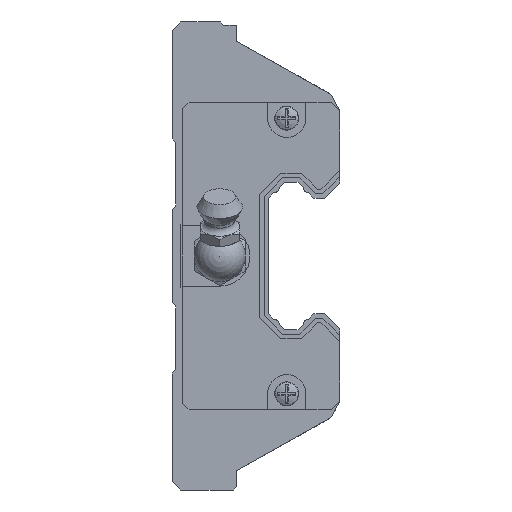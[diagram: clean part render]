
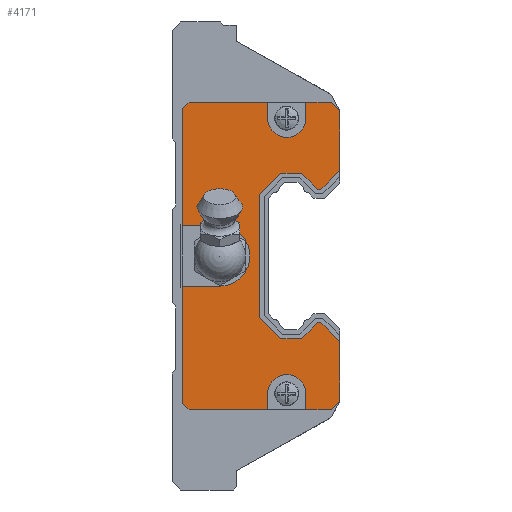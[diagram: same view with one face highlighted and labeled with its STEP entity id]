
A CAD part, left-side view. The second image highlights one B-rep face of the part: STEP entity #4171.
In plain terms, the highlighted planar face has unit normal (-1, 0, 0) as drawn and (1, 0, 0) by its records, which use the part's own axes.
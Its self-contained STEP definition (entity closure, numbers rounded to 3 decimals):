
#3736 = EDGE_CURVE('',#3737,#3739,#3741,.T.);
#3737 = VERTEX_POINT('',#3738);
#3738 = CARTESIAN_POINT('',(3.,18.16,-24.));
#3739 = VERTEX_POINT('',#3740);
#3740 = CARTESIAN_POINT('',(3.,18.16,-21.5));
#3741 = LINE('',#3742,#3743);
#3742 = CARTESIAN_POINT('',(3.,18.16,0.));
#3743 = VECTOR('',#3744,1.);
#3744 = DIRECTION('',(0.,0.,1.));
#3787 = VERTEX_POINT('',#3788);
#3788 = CARTESIAN_POINT('',(3.,12.16,-21.5));
#3794 = EDGE_CURVE('',#3739,#3787,#3795,.T.);
#3795 = CIRCLE('',#3796,3.);
#3796 = AXIS2_PLACEMENT_3D('',#3797,#3798,#3799);
#3797 = CARTESIAN_POINT('',(3.,15.16,-21.5));
#3798 = DIRECTION('',(1.,0.,0.));
#3799 = DIRECTION('',(0.,0.,-1.));
#4123 = VERTEX_POINT('',#4124);
#4124 = CARTESIAN_POINT('',(3.,6.9,13.327));
#4130 = EDGE_CURVE('',#4131,#4123,#4133,.T.);
#4131 = VERTEX_POINT('',#4132);
#4132 = CARTESIAN_POINT('',(3.,6.9,22.66));
#4133 = LINE('',#4134,#4135);
#4134 = CARTESIAN_POINT('',(3.,6.9,22.66));
#4135 = VECTOR('',#4136,1.);
#4136 = DIRECTION('',(0.,0.,-1.));
#4171 = ADVANCED_FACE('',(#4172),#4407,.T.);
#4172 = FACE_BOUND('',#4173,.T.);
#4173 = EDGE_LOOP('',(#4174,#4182,#4190,#4198,#4206,#4214,#4222,#4230,
    #4238,#4246,#4254,#4262,#4270,#4278,#4286,#4292,#4293,#4294,#4302,
    #4310,#4318,#4326,#4335,#4343,#4351,#4359,#4367,#4375,#4384,#4392,
    #4400,#4406));
#4174 = ORIENTED_EDGE('',*,*,#4175,.F.);
#4175 = EDGE_CURVE('',#4176,#4123,#4178,.T.);
#4176 = VERTEX_POINT('',#4177);
#4177 = CARTESIAN_POINT('',(3.,9.825,10.402));
#4178 = LINE('',#4179,#4180);
#4179 = CARTESIAN_POINT('',(3.,9.825,10.402));
#4180 = VECTOR('',#4181,1.);
#4181 = DIRECTION('',(0.,-0.707,0.707));
#4182 = ORIENTED_EDGE('',*,*,#4183,.F.);
#4183 = EDGE_CURVE('',#4184,#4176,#4186,.T.);
#4184 = VERTEX_POINT('',#4185);
#4185 = CARTESIAN_POINT('',(3.,10.348,10.402));
#4186 = LINE('',#4187,#4188);
#4187 = CARTESIAN_POINT('',(3.,10.348,10.402));
#4188 = VECTOR('',#4189,1.);
#4189 = DIRECTION('',(0.,-1.,0.));
#4190 = ORIENTED_EDGE('',*,*,#4191,.F.);
#4191 = EDGE_CURVE('',#4192,#4184,#4194,.T.);
#4192 = VERTEX_POINT('',#4193);
#4193 = CARTESIAN_POINT('',(3.,12.826,12.88));
#4194 = LINE('',#4195,#4196);
#4195 = CARTESIAN_POINT('',(3.,12.826,12.88));
#4196 = VECTOR('',#4197,1.);
#4197 = DIRECTION('',(0.,-0.707,-0.707));
#4198 = ORIENTED_EDGE('',*,*,#4199,.F.);
#4199 = EDGE_CURVE('',#4200,#4192,#4202,.T.);
#4200 = VERTEX_POINT('',#4201);
#4201 = CARTESIAN_POINT('',(3.,16.094,12.88));
#4202 = LINE('',#4203,#4204);
#4203 = CARTESIAN_POINT('',(3.,16.094,12.88));
#4204 = VECTOR('',#4205,1.);
#4205 = DIRECTION('',(0.,-1.,0.));
#4206 = ORIENTED_EDGE('',*,*,#4207,.F.);
#4207 = EDGE_CURVE('',#4208,#4200,#4210,.T.);
#4208 = VERTEX_POINT('',#4209);
#4209 = CARTESIAN_POINT('',(3.,19.38,9.594));
#4210 = LINE('',#4211,#4212);
#4211 = CARTESIAN_POINT('',(3.,19.38,9.594));
#4212 = VECTOR('',#4213,1.);
#4213 = DIRECTION('',(0.,-0.707,0.707));
#4214 = ORIENTED_EDGE('',*,*,#4215,.F.);
#4215 = EDGE_CURVE('',#4216,#4208,#4218,.T.);
#4216 = VERTEX_POINT('',#4217);
#4217 = CARTESIAN_POINT('',(3.,19.38,-9.594));
#4218 = LINE('',#4219,#4220);
#4219 = CARTESIAN_POINT('',(3.,19.38,-9.594));
#4220 = VECTOR('',#4221,1.);
#4221 = DIRECTION('',(0.,0.,1.));
#4222 = ORIENTED_EDGE('',*,*,#4223,.F.);
#4223 = EDGE_CURVE('',#4224,#4216,#4226,.T.);
#4224 = VERTEX_POINT('',#4225);
#4225 = CARTESIAN_POINT('',(3.,16.094,-12.88));
#4226 = LINE('',#4227,#4228);
#4227 = CARTESIAN_POINT('',(3.,16.094,-12.88));
#4228 = VECTOR('',#4229,1.);
#4229 = DIRECTION('',(0.,0.707,0.707));
#4230 = ORIENTED_EDGE('',*,*,#4231,.F.);
#4231 = EDGE_CURVE('',#4232,#4224,#4234,.T.);
#4232 = VERTEX_POINT('',#4233);
#4233 = CARTESIAN_POINT('',(3.,12.826,-12.88));
#4234 = LINE('',#4235,#4236);
#4235 = CARTESIAN_POINT('',(3.,12.826,-12.88));
#4236 = VECTOR('',#4237,1.);
#4237 = DIRECTION('',(0.,1.,0.));
#4238 = ORIENTED_EDGE('',*,*,#4239,.F.);
#4239 = EDGE_CURVE('',#4240,#4232,#4242,.T.);
#4240 = VERTEX_POINT('',#4241);
#4241 = CARTESIAN_POINT('',(3.,10.348,-10.402));
#4242 = LINE('',#4243,#4244);
#4243 = CARTESIAN_POINT('',(3.,10.348,-10.402));
#4244 = VECTOR('',#4245,1.);
#4245 = DIRECTION('',(0.,0.707,-0.707));
#4246 = ORIENTED_EDGE('',*,*,#4247,.F.);
#4247 = EDGE_CURVE('',#4248,#4240,#4250,.T.);
#4248 = VERTEX_POINT('',#4249);
#4249 = CARTESIAN_POINT('',(3.,9.825,-10.402));
#4250 = LINE('',#4251,#4252);
#4251 = CARTESIAN_POINT('',(3.,9.825,-10.402));
#4252 = VECTOR('',#4253,1.);
#4253 = DIRECTION('',(0.,1.,0.));
#4254 = ORIENTED_EDGE('',*,*,#4255,.F.);
#4255 = EDGE_CURVE('',#4256,#4248,#4258,.T.);
#4256 = VERTEX_POINT('',#4257);
#4257 = CARTESIAN_POINT('',(3.,6.9,-13.327));
#4258 = LINE('',#4259,#4260);
#4259 = CARTESIAN_POINT('',(3.,6.9,-13.327));
#4260 = VECTOR('',#4261,1.);
#4261 = DIRECTION('',(0.,0.707,0.707));
#4262 = ORIENTED_EDGE('',*,*,#4263,.T.);
#4263 = EDGE_CURVE('',#4256,#4264,#4266,.T.);
#4264 = VERTEX_POINT('',#4265);
#4265 = CARTESIAN_POINT('',(3.,6.9,-22.66));
#4266 = LINE('',#4267,#4268);
#4267 = CARTESIAN_POINT('',(3.,6.9,22.66));
#4268 = VECTOR('',#4269,1.);
#4269 = DIRECTION('',(0.,0.,-1.));
#4270 = ORIENTED_EDGE('',*,*,#4271,.T.);
#4271 = EDGE_CURVE('',#4264,#4272,#4274,.T.);
#4272 = VERTEX_POINT('',#4273);
#4273 = CARTESIAN_POINT('',(3.,8.24,-24.));
#4274 = LINE('',#4275,#4276);
#4275 = CARTESIAN_POINT('',(3.,6.9,-22.66));
#4276 = VECTOR('',#4277,1.);
#4277 = DIRECTION('',(0.,0.707,-0.707));
#4278 = ORIENTED_EDGE('',*,*,#4279,.T.);
#4279 = EDGE_CURVE('',#4272,#4280,#4282,.T.);
#4280 = VERTEX_POINT('',#4281);
#4281 = CARTESIAN_POINT('',(3.,12.16,-24.));
#4282 = LINE('',#4283,#4284);
#4283 = CARTESIAN_POINT('',(3.,8.24,-24.));
#4284 = VECTOR('',#4285,1.);
#4285 = DIRECTION('',(0.,1.,0.));
#4286 = ORIENTED_EDGE('',*,*,#4287,.F.);
#4287 = EDGE_CURVE('',#3787,#4280,#4288,.T.);
#4288 = LINE('',#4289,#4290);
#4289 = CARTESIAN_POINT('',(3.,12.16,-21.5));
#4290 = VECTOR('',#4291,1.);
#4291 = DIRECTION('',(0.,0.,-1.));
#4292 = ORIENTED_EDGE('',*,*,#3794,.F.);
#4293 = ORIENTED_EDGE('',*,*,#3736,.F.);
#4294 = ORIENTED_EDGE('',*,*,#4295,.T.);
#4295 = EDGE_CURVE('',#3737,#4296,#4298,.T.);
#4296 = VERTEX_POINT('',#4297);
#4297 = CARTESIAN_POINT('',(3.,30.4,-24.));
#4298 = LINE('',#4299,#4300);
#4299 = CARTESIAN_POINT('',(3.,8.24,-24.));
#4300 = VECTOR('',#4301,1.);
#4301 = DIRECTION('',(0.,1.,0.));
#4302 = ORIENTED_EDGE('',*,*,#4303,.T.);
#4303 = EDGE_CURVE('',#4296,#4304,#4306,.T.);
#4304 = VERTEX_POINT('',#4305);
#4305 = CARTESIAN_POINT('',(3.,31.4,-23.));
#4306 = LINE('',#4307,#4308);
#4307 = CARTESIAN_POINT('',(3.,30.4,-24.));
#4308 = VECTOR('',#4309,1.);
#4309 = DIRECTION('',(0.,0.707,0.707));
#4310 = ORIENTED_EDGE('',*,*,#4311,.T.);
#4311 = EDGE_CURVE('',#4304,#4312,#4314,.T.);
#4312 = VERTEX_POINT('',#4313);
#4313 = CARTESIAN_POINT('',(3.,31.4,-4.7));
#4314 = LINE('',#4315,#4316);
#4315 = CARTESIAN_POINT('',(3.,31.4,-23.));
#4316 = VECTOR('',#4317,1.);
#4317 = DIRECTION('',(0.,0.,1.));
#4318 = ORIENTED_EDGE('',*,*,#4319,.F.);
#4319 = EDGE_CURVE('',#4320,#4312,#4322,.T.);
#4320 = VERTEX_POINT('',#4321);
#4321 = CARTESIAN_POINT('',(3.,25.6,-4.7));
#4322 = LINE('',#4323,#4324);
#4323 = CARTESIAN_POINT('',(3.,25.6,-4.7));
#4324 = VECTOR('',#4325,1.);
#4325 = DIRECTION('',(0.,1.,0.));
#4326 = ORIENTED_EDGE('',*,*,#4327,.F.);
#4327 = EDGE_CURVE('',#4328,#4320,#4330,.T.);
#4328 = VERTEX_POINT('',#4329);
#4329 = CARTESIAN_POINT('',(3.,25.6,4.7));
#4330 = CIRCLE('',#4331,4.7);
#4331 = AXIS2_PLACEMENT_3D('',#4332,#4333,#4334);
#4332 = CARTESIAN_POINT('',(3.,25.6,0.));
#4333 = DIRECTION('',(1.,0.,0.));
#4334 = DIRECTION('',(0.,0.,-1.));
#4335 = ORIENTED_EDGE('',*,*,#4336,.F.);
#4336 = EDGE_CURVE('',#4337,#4328,#4339,.T.);
#4337 = VERTEX_POINT('',#4338);
#4338 = CARTESIAN_POINT('',(3.,31.4,4.7));
#4339 = LINE('',#4340,#4341);
#4340 = CARTESIAN_POINT('',(3.,31.4,4.7));
#4341 = VECTOR('',#4342,1.);
#4342 = DIRECTION('',(0.,-1.,0.));
#4343 = ORIENTED_EDGE('',*,*,#4344,.T.);
#4344 = EDGE_CURVE('',#4337,#4345,#4347,.T.);
#4345 = VERTEX_POINT('',#4346);
#4346 = CARTESIAN_POINT('',(3.,31.4,23.));
#4347 = LINE('',#4348,#4349);
#4348 = CARTESIAN_POINT('',(3.,31.4,-23.));
#4349 = VECTOR('',#4350,1.);
#4350 = DIRECTION('',(0.,0.,1.));
#4351 = ORIENTED_EDGE('',*,*,#4352,.T.);
#4352 = EDGE_CURVE('',#4345,#4353,#4355,.T.);
#4353 = VERTEX_POINT('',#4354);
#4354 = CARTESIAN_POINT('',(3.,30.4,24.));
#4355 = LINE('',#4356,#4357);
#4356 = CARTESIAN_POINT('',(3.,31.4,23.));
#4357 = VECTOR('',#4358,1.);
#4358 = DIRECTION('',(0.,-0.707,0.707));
#4359 = ORIENTED_EDGE('',*,*,#4360,.T.);
#4360 = EDGE_CURVE('',#4353,#4361,#4363,.T.);
#4361 = VERTEX_POINT('',#4362);
#4362 = CARTESIAN_POINT('',(3.,18.16,24.));
#4363 = LINE('',#4364,#4365);
#4364 = CARTESIAN_POINT('',(3.,30.4,24.));
#4365 = VECTOR('',#4366,1.);
#4366 = DIRECTION('',(0.,-1.,0.));
#4367 = ORIENTED_EDGE('',*,*,#4368,.F.);
#4368 = EDGE_CURVE('',#4369,#4361,#4371,.T.);
#4369 = VERTEX_POINT('',#4370);
#4370 = CARTESIAN_POINT('',(3.,18.16,21.5));
#4371 = LINE('',#4372,#4373);
#4372 = CARTESIAN_POINT('',(3.,18.16,21.5));
#4373 = VECTOR('',#4374,1.);
#4374 = DIRECTION('',(0.,0.,1.));
#4375 = ORIENTED_EDGE('',*,*,#4376,.F.);
#4376 = EDGE_CURVE('',#4377,#4369,#4379,.T.);
#4377 = VERTEX_POINT('',#4378);
#4378 = CARTESIAN_POINT('',(3.,12.16,21.5));
#4379 = CIRCLE('',#4380,3.);
#4380 = AXIS2_PLACEMENT_3D('',#4381,#4382,#4383);
#4381 = CARTESIAN_POINT('',(3.,15.16,21.5));
#4382 = DIRECTION('',(1.,0.,0.));
#4383 = DIRECTION('',(0.,0.,-1.));
#4384 = ORIENTED_EDGE('',*,*,#4385,.F.);
#4385 = EDGE_CURVE('',#4386,#4377,#4388,.T.);
#4386 = VERTEX_POINT('',#4387);
#4387 = CARTESIAN_POINT('',(3.,12.16,24.));
#4388 = LINE('',#4389,#4390);
#4389 = CARTESIAN_POINT('',(3.,12.16,24.));
#4390 = VECTOR('',#4391,1.);
#4391 = DIRECTION('',(0.,0.,-1.));
#4392 = ORIENTED_EDGE('',*,*,#4393,.T.);
#4393 = EDGE_CURVE('',#4386,#4394,#4396,.T.);
#4394 = VERTEX_POINT('',#4395);
#4395 = CARTESIAN_POINT('',(3.,8.24,24.));
#4396 = LINE('',#4397,#4398);
#4397 = CARTESIAN_POINT('',(3.,30.4,24.));
#4398 = VECTOR('',#4399,1.);
#4399 = DIRECTION('',(0.,-1.,0.));
#4400 = ORIENTED_EDGE('',*,*,#4401,.T.);
#4401 = EDGE_CURVE('',#4394,#4131,#4402,.T.);
#4402 = LINE('',#4403,#4404);
#4403 = CARTESIAN_POINT('',(3.,8.24,24.));
#4404 = VECTOR('',#4405,1.);
#4405 = DIRECTION('',(0.,-0.707,-0.707));
#4406 = ORIENTED_EDGE('',*,*,#4130,.T.);
#4407 = PLANE('',#4408);
#4408 = AXIS2_PLACEMENT_3D('',#4409,#4410,#4411);
#4409 = CARTESIAN_POINT('',(3.,0.,0.));
#4410 = DIRECTION('',(1.,0.,0.));
#4411 = DIRECTION('',(0.,0.,1.));
